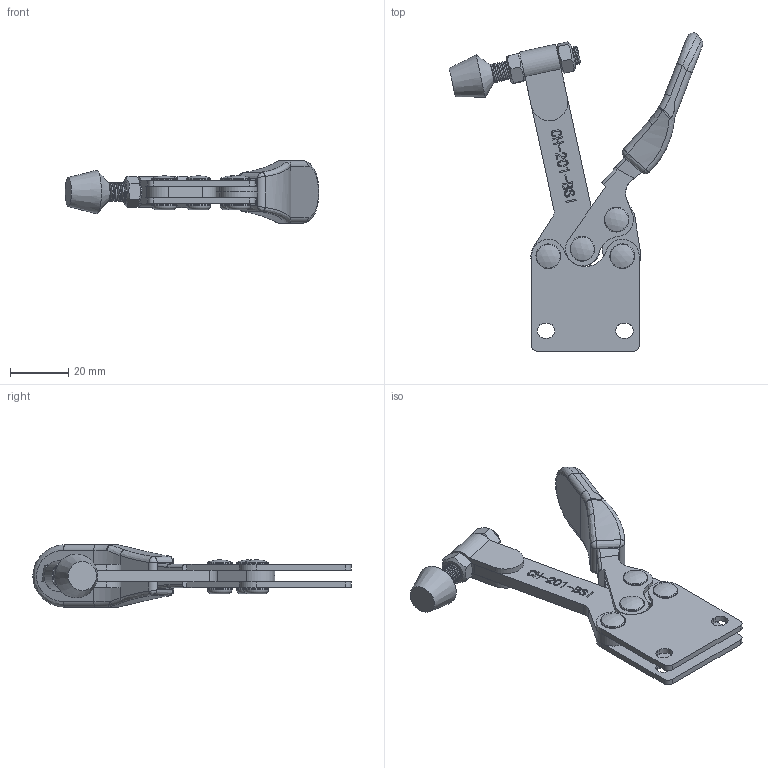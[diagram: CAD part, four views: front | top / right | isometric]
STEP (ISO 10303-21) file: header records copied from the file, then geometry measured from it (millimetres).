
FILE_DESCRIPTION(/* description */ ('STEP AP203'),/* implementation_level */ '2;1');
FILE_NAME(/* name */ 'E:\STRONA\Horizontal toggle clamp\CH-201-BSI\CH-201-BSI_OTWARTY.stp',/* time_stamp */ '2019-01-10T17:00:54+01:00',/* author */ ('Admin'),/* organization */ ('·L?¤¤?'),/* preprocessor_version */ 'ST-DEVELOPER v17.2',/* originating_system */ 'Autodesk Inventor 2019',/* authorisation */ '');
FILE_SCHEMA (('AUTOMOTIVE_DESIGN { 1 0 10303 214 3 1 1 }'));
Products named in the file (11): CH-201-BSI_OTWARTY; 14134-02___; BR-142___; 201-B-04___; 201-B___; 201-B-03___; 201-B-05___; 201-BSI-02___; 201-BI-01___; 14134___; 201-B-06___
Assembly tree (15 placements, depth 3):
  CH-201-BSI_OTWARTY
    14134-02___  x2
    201-B-06___  x4
    201-B-04___  x2
    BR-142___
    201-B___
      201-B-03___
      201-B-05___
    201-BSI-02___
    201-BI-01___
    14134___
Bounding box: 87.14 x 109.38 x 21.5 mm (x, y, z)
Volume: 22601.7 mm3; surface area: 24066.8 mm2
Topology: 15 solids, 17 shells, 660 faces, 1813 edges, 1218 vertices
Faces by surface type: plane 262, bspline 215, cylinder 142, cone 18, torus 18, sphere 5
Full cylindrical faces by diameter (mm): 1.7 x1, 2.2 x1, 3.494 x4, 4.7 x4, 4.78 x4, 4.8 x10, 5.1 x6, 6.4 x26, 8.5 x8
Entity records: 49393 total; most frequent: CARTESIAN_POINT 35211, ORIENTED_EDGE 3262, DIRECTION 2167, EDGE_CURVE 1631, VERTEX_POINT 1091, LINE 847, VECTOR 847, EDGE_LOOP 660
